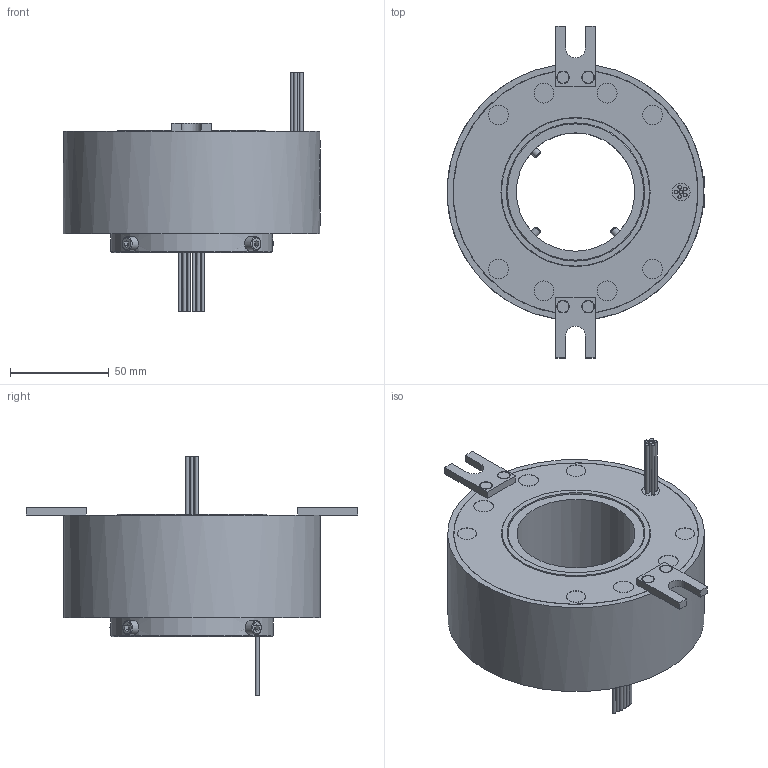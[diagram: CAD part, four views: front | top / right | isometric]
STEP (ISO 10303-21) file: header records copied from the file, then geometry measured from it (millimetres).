
FILE_DESCRIPTION(/* description */ (''),/* implementation_level */ '2;1');
FILE_NAME(/* name */ 'HD60130-0610-3D模型.stp',/* time_stamp */ '2025-09-04T13:36:04+08:00',/* author */ (''),/* organization */ (''),/* preprocessor_version */ 'ST-DEVELOPER v16.7',/* originating_system */ 'SIEMENS PLM Software NX 12.0',/* authorisation */ '');
FILE_SCHEMA (('AUTOMOTIVE_DESIGN { 1 0 10303 214 3 1 1 1 }'));
Length unit declared in the file: millimetre
Products named in the file (1): Admi82E4D60F1jhu
Bounding box: 130.49 x 168 x 121.3 mm (x, y, z)
Volume: 572579.1 mm3; surface area: 63562.7 mm2
Topology: 5 solids, 5 shells, 762 faces, 1995 edges, 1327 vertices
Faces by surface type: plane 327, extrusion 313, cylinder 74, bspline 30, cone 14, torus 4
Full cylindrical faces by diameter (mm): 1.8 x12, 3 x4, 3.4 x1, 3.5 x4, 4 x7, 6 x4, 7 x4, 9 x1, 10 x8, 59.9 x1, 70 x1, 75 x1, 75.5 x1, 82 x1, 123.8 x2, 124 x2, 130 x1
Entity records: 29058 total; most frequent: CARTESIAN_POINT 13129, ORIENTED_EDGE 3788, DIRECTION 2011, EDGE_CURVE 1894, B_SPLINE_CURVE_WITH_KNOTS 1644, VERTEX_POINT 1299, EDGE_LOOP 933, ADVANCED_FACE 762
